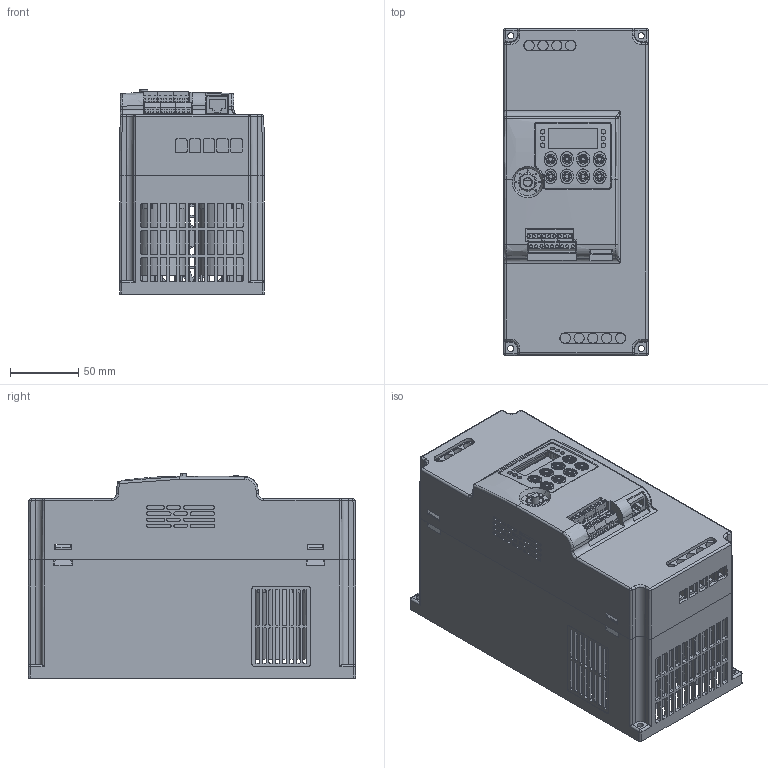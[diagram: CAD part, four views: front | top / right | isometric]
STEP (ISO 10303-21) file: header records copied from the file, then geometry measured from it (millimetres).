
FILE_DESCRIPTION((''),'2;1');
FILE_NAME('ASM0029_ASM','2018-06-02T',('Administrator'),(''),'PRO/ENGINEER BY PARAMETRIC TECHNOLOGY CORPORATION, 2011370','PRO/ENGINEER BY PARAMETRIC TECHNOLOGY CORPORATION, 2011370','');
FILE_SCHEMA(('CONFIG_CONTROL_DESIGN'));
Products named in the file (19): PRT0044; PRT0045; PRT0046; PRT0047; PRT0048; PRT0049; PRT0050; PRT0051; PRT0052; PRT0053; PRT0054; PRT0055; PRT0056; PRT0057; PRT0058; PRT0059; ASM0030_ASM; PRT0060; ASM0029_ASM
Assembly tree (18 placements, depth 3):
  ASM0029_ASM
    ASM0030_ASM
      PRT0044
      PRT0045
      PRT0046
      PRT0047
      PRT0048
      PRT0049
      PRT0050
      PRT0051
      PRT0052
      PRT0053
      PRT0054
      PRT0055
      PRT0056
      PRT0057
      PRT0058
      PRT0059
    PRT0060
Bounding box: 106.5 x 240.5 x 150.2 mm (x, y, z)
Volume: 1101882.2 mm3; surface area: 769701.9 mm2
Topology: 17 solids, 17 shells, 3623 faces, 10463 edges, 7045 vertices
Faces by surface type: plane 2100, cylinder 1169, extrusion 206, bspline 64, cone 43, torus 22, sphere 14, revolution 5
Entity records: 128981 total; most frequent: CARTESIAN_POINT 33151, ORIENTED_EDGE 20898, DIRECTION 18298, EDGE_CURVE 10449, VERTEX_POINT 7045, VECTOR 6841, LINE 6635, AXIS2_PLACEMENT_3D 5726
